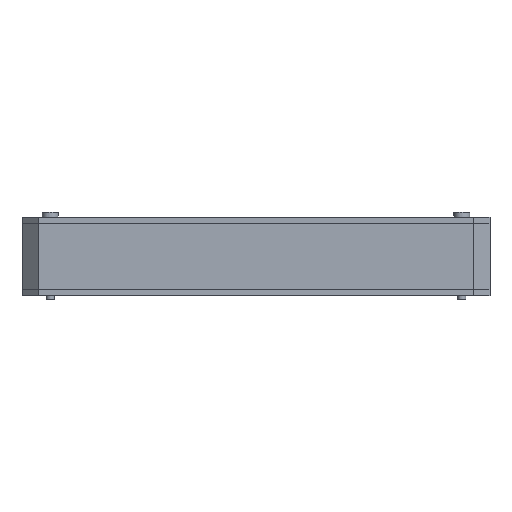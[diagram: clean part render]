
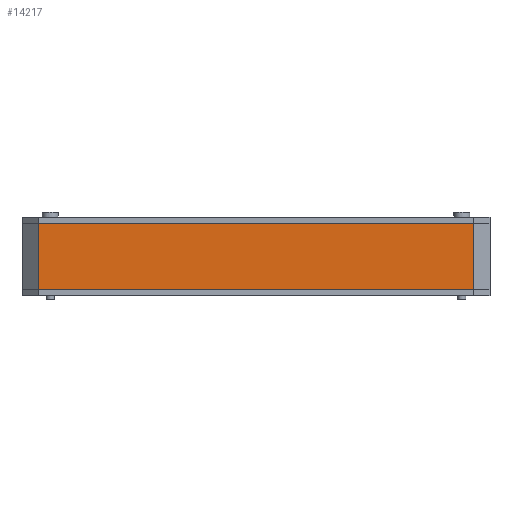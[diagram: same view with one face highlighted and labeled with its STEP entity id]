
A CAD part, front view. The second image highlights one B-rep face of the part: STEP entity #14217.
In plain terms, the highlighted planar face has unit normal (0, -1, 0).
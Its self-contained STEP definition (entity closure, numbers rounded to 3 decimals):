
#14217 = ADVANCED_FACE('',(#14218),#14232,.F.);
#14218 = FACE_BOUND('',#14219,.F.);
#14219 = EDGE_LOOP('',(#14220,#14255,#14283,#14311));
#14220 = ORIENTED_EDGE('',*,*,#14221,.T.);
#14221 = EDGE_CURVE('',#14222,#14224,#14226,.T.);
#14222 = VERTEX_POINT('',#14223);
#14223 = CARTESIAN_POINT('',(-54.,-43.,-10.1));
#14224 = VERTEX_POINT('',#14225);
#14225 = CARTESIAN_POINT('',(-54.,-43.,6.4));
#14226 = SURFACE_CURVE('',#14227,(#14231,#14243),.PCURVE_S1.);
#14227 = LINE('',#14228,#14229);
#14228 = CARTESIAN_POINT('',(-54.,-43.,-10.1));
#14229 = VECTOR('',#14230,1.);
#14230 = DIRECTION('',(0.,0.,1.));
#14231 = PCURVE('',#14232,#14237);
#14232 = PLANE('',#14233);
#14233 = AXIS2_PLACEMENT_3D('',#14234,#14235,#14236);
#14234 = CARTESIAN_POINT('',(-54.,-43.,-10.1));
#14235 = DIRECTION('',(0.,1.,0.));
#14236 = DIRECTION('',(1.,0.,0.));
#14237 = DEFINITIONAL_REPRESENTATION('',(#14238),#14242);
#14238 = LINE('',#14239,#14240);
#14239 = CARTESIAN_POINT('',(0.,0.));
#14240 = VECTOR('',#14241,1.);
#14241 = DIRECTION('',(0.,-1.));
#14242 = ( GEOMETRIC_REPRESENTATION_CONTEXT(2) 
PARAMETRIC_REPRESENTATION_CONTEXT() REPRESENTATION_CONTEXT('2D SPACE',''
  ) );
#14243 = PCURVE('',#14244,#14249);
#14244 = PLANE('',#14245);
#14245 = AXIS2_PLACEMENT_3D('',#14246,#14247,#14248);
#14246 = CARTESIAN_POINT('',(-58.,-39.,-10.1));
#14247 = DIRECTION('',(0.707,0.707,-0.));
#14248 = DIRECTION('',(0.707,-0.707,0.));
#14249 = DEFINITIONAL_REPRESENTATION('',(#14250),#14254);
#14250 = LINE('',#14251,#14252);
#14251 = CARTESIAN_POINT('',(5.657,0.));
#14252 = VECTOR('',#14253,1.);
#14253 = DIRECTION('',(0.,-1.));
#14254 = ( GEOMETRIC_REPRESENTATION_CONTEXT(2) 
PARAMETRIC_REPRESENTATION_CONTEXT() REPRESENTATION_CONTEXT('2D SPACE',''
  ) );
#14255 = ORIENTED_EDGE('',*,*,#14256,.T.);
#14256 = EDGE_CURVE('',#14224,#14257,#14259,.T.);
#14257 = VERTEX_POINT('',#14258);
#14258 = CARTESIAN_POINT('',(54.,-43.,6.4));
#14259 = SURFACE_CURVE('',#14260,(#14264,#14271),.PCURVE_S1.);
#14260 = LINE('',#14261,#14262);
#14261 = CARTESIAN_POINT('',(-54.,-43.,6.4));
#14262 = VECTOR('',#14263,1.);
#14263 = DIRECTION('',(1.,0.,0.));
#14264 = PCURVE('',#14232,#14265);
#14265 = DEFINITIONAL_REPRESENTATION('',(#14266),#14270);
#14266 = LINE('',#14267,#14268);
#14267 = CARTESIAN_POINT('',(0.,-16.5));
#14268 = VECTOR('',#14269,1.);
#14269 = DIRECTION('',(1.,0.));
#14270 = ( GEOMETRIC_REPRESENTATION_CONTEXT(2) 
PARAMETRIC_REPRESENTATION_CONTEXT() REPRESENTATION_CONTEXT('2D SPACE',''
  ) );
#14271 = PCURVE('',#14272,#14277);
#14272 = PLANE('',#14273);
#14273 = AXIS2_PLACEMENT_3D('',#14274,#14275,#14276);
#14274 = CARTESIAN_POINT('',(0.956,-1.253,6.4));
#14275 = DIRECTION('',(0.,0.,1.));
#14276 = DIRECTION('',(1.,0.,0.));
#14277 = DEFINITIONAL_REPRESENTATION('',(#14278),#14282);
#14278 = LINE('',#14279,#14280);
#14279 = CARTESIAN_POINT('',(-54.956,-41.747));
#14280 = VECTOR('',#14281,1.);
#14281 = DIRECTION('',(1.,0.));
#14282 = ( GEOMETRIC_REPRESENTATION_CONTEXT(2) 
PARAMETRIC_REPRESENTATION_CONTEXT() REPRESENTATION_CONTEXT('2D SPACE',''
  ) );
#14283 = ORIENTED_EDGE('',*,*,#14284,.F.);
#14284 = EDGE_CURVE('',#14285,#14257,#14287,.T.);
#14285 = VERTEX_POINT('',#14286);
#14286 = CARTESIAN_POINT('',(54.,-43.,-10.1));
#14287 = SURFACE_CURVE('',#14288,(#14292,#14299),.PCURVE_S1.);
#14288 = LINE('',#14289,#14290);
#14289 = CARTESIAN_POINT('',(54.,-43.,-10.1));
#14290 = VECTOR('',#14291,1.);
#14291 = DIRECTION('',(0.,0.,1.));
#14292 = PCURVE('',#14232,#14293);
#14293 = DEFINITIONAL_REPRESENTATION('',(#14294),#14298);
#14294 = LINE('',#14295,#14296);
#14295 = CARTESIAN_POINT('',(108.,0.));
#14296 = VECTOR('',#14297,1.);
#14297 = DIRECTION('',(0.,-1.));
#14298 = ( GEOMETRIC_REPRESENTATION_CONTEXT(2) 
PARAMETRIC_REPRESENTATION_CONTEXT() REPRESENTATION_CONTEXT('2D SPACE',''
  ) );
#14299 = PCURVE('',#14300,#14305);
#14300 = PLANE('',#14301);
#14301 = AXIS2_PLACEMENT_3D('',#14302,#14303,#14304);
#14302 = CARTESIAN_POINT('',(54.,-43.,-10.1));
#14303 = DIRECTION('',(-0.707,0.707,0.));
#14304 = DIRECTION('',(0.707,0.707,0.));
#14305 = DEFINITIONAL_REPRESENTATION('',(#14306),#14310);
#14306 = LINE('',#14307,#14308);
#14307 = CARTESIAN_POINT('',(0.,0.));
#14308 = VECTOR('',#14309,1.);
#14309 = DIRECTION('',(0.,-1.));
#14310 = ( GEOMETRIC_REPRESENTATION_CONTEXT(2) 
PARAMETRIC_REPRESENTATION_CONTEXT() REPRESENTATION_CONTEXT('2D SPACE',''
  ) );
#14311 = ORIENTED_EDGE('',*,*,#14312,.F.);
#14312 = EDGE_CURVE('',#14222,#14285,#14313,.T.);
#14313 = SURFACE_CURVE('',#14314,(#14318,#14325),.PCURVE_S1.);
#14314 = LINE('',#14315,#14316);
#14315 = CARTESIAN_POINT('',(-54.,-43.,-10.1));
#14316 = VECTOR('',#14317,1.);
#14317 = DIRECTION('',(1.,0.,0.));
#14318 = PCURVE('',#14232,#14319);
#14319 = DEFINITIONAL_REPRESENTATION('',(#14320),#14324);
#14320 = LINE('',#14321,#14322);
#14321 = CARTESIAN_POINT('',(0.,0.));
#14322 = VECTOR('',#14323,1.);
#14323 = DIRECTION('',(1.,0.));
#14324 = ( GEOMETRIC_REPRESENTATION_CONTEXT(2) 
PARAMETRIC_REPRESENTATION_CONTEXT() REPRESENTATION_CONTEXT('2D SPACE',''
  ) );
#14325 = PCURVE('',#14326,#14331);
#14326 = PLANE('',#14327);
#14327 = AXIS2_PLACEMENT_3D('',#14328,#14329,#14330);
#14328 = CARTESIAN_POINT('',(0.956,-1.253,-10.1));
#14329 = DIRECTION('',(0.,0.,1.));
#14330 = DIRECTION('',(1.,0.,0.));
#14331 = DEFINITIONAL_REPRESENTATION('',(#14332),#14336);
#14332 = LINE('',#14333,#14334);
#14333 = CARTESIAN_POINT('',(-54.956,-41.747));
#14334 = VECTOR('',#14335,1.);
#14335 = DIRECTION('',(1.,0.));
#14336 = ( GEOMETRIC_REPRESENTATION_CONTEXT(2) 
PARAMETRIC_REPRESENTATION_CONTEXT() REPRESENTATION_CONTEXT('2D SPACE',''
  ) );
